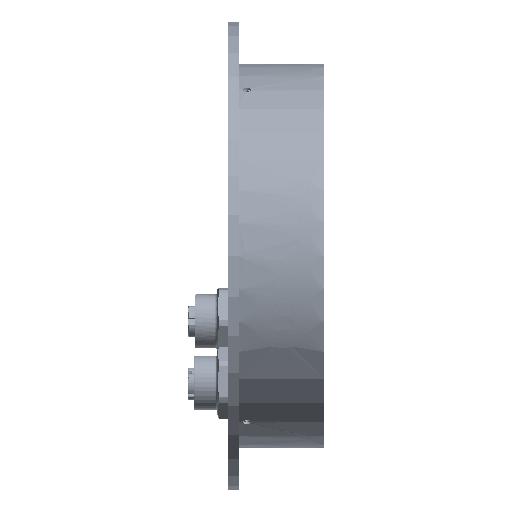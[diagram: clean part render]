
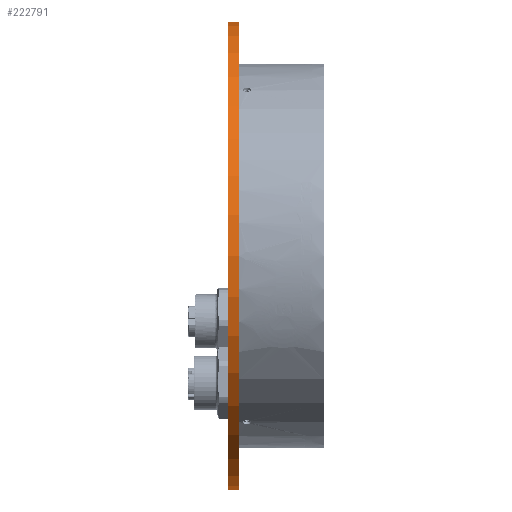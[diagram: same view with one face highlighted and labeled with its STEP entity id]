
A CAD part, front view. The second image highlights one B-rep face of the part: STEP entity #222791.
In plain terms, the highlighted cylindrical face has radius 61 mm (diameter 122 mm), a partial arc.
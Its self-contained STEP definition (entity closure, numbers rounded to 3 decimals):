
#974 = DIRECTION ( 'NONE',  ( 1., 0., 0. ) ) ;
#13043 = DIRECTION ( 'NONE',  ( 1., 0., 0. ) ) ;
#15783 = CIRCLE ( 'NONE', #160963, 61. ) ;
#19406 = EDGE_LOOP ( 'NONE', ( #90348, #55183, #224504, #225184 ) ) ;
#45458 = VECTOR ( 'NONE', #163009, 1000. ) ;
#46027 = AXIS2_PLACEMENT_3D ( 'NONE', #171261, #974, #168053 ) ;
#55183 = ORIENTED_EDGE ( 'NONE', *, *, #99300, .T. ) ;
#63323 = DIRECTION ( 'NONE',  ( 0., 0., -1. ) ) ;
#69161 = VERTEX_POINT ( 'NONE', #191452 ) ;
#72690 = VERTEX_POINT ( 'NONE', #122147 ) ;
#80180 = EDGE_CURVE ( 'NONE', #72690, #140333, #294338, .T. ) ;
#88830 = EDGE_CURVE ( 'NONE', #135814, #140333, #15783, .T. ) ;
#90348 = ORIENTED_EDGE ( 'NONE', *, *, #121621, .F. ) ;
#93118 = LINE ( 'NONE', #261847, #45458 ) ;
#99300 = EDGE_CURVE ( 'NONE', #69161, #72690, #162767, .T. ) ;
#107016 = VECTOR ( 'NONE', #171186, 1000. ) ;
#121621 = EDGE_CURVE ( 'NONE', #69161, #135814, #93118, .T. ) ;
#122147 = CARTESIAN_POINT ( 'NONE',  ( -3., 0., -61. ) ) ;
#135814 = VERTEX_POINT ( 'NONE', #169279 ) ;
#140333 = VERTEX_POINT ( 'NONE', #304654 ) ;
#141243 = DIRECTION ( 'NONE',  ( 1., 0., 0. ) ) ;
#160963 = AXIS2_PLACEMENT_3D ( 'NONE', #212651, #141243, #188370 ) ;
#162767 = CIRCLE ( 'NONE', #318030, 61. ) ;
#163009 = DIRECTION ( 'NONE',  ( 1., 0., 0. ) ) ;
#168053 = DIRECTION ( 'NONE',  ( 0., 0., -1. ) ) ;
#169279 = CARTESIAN_POINT ( 'NONE',  ( 0., 0., 61. ) ) ;
#171186 = DIRECTION ( 'NONE',  ( 1., 0., 0. ) ) ;
#171261 = CARTESIAN_POINT ( 'NONE',  ( 63.419, 0., 0. ) ) ;
#188370 = DIRECTION ( 'NONE',  ( 0., 0., -1. ) ) ;
#191452 = CARTESIAN_POINT ( 'NONE',  ( -3., 0., 61. ) ) ;
#198756 = CARTESIAN_POINT ( 'NONE',  ( 63.419, 0., -61. ) ) ;
#212651 = CARTESIAN_POINT ( 'NONE',  ( 0., 0., 0. ) ) ;
#222791 = ADVANCED_FACE ( 'NONE', ( #268475 ), #223117, .T. ) ;
#223117 = CYLINDRICAL_SURFACE ( 'NONE', #46027, 61. ) ;
#224504 = ORIENTED_EDGE ( 'NONE', *, *, #80180, .T. ) ;
#225184 = ORIENTED_EDGE ( 'NONE', *, *, #88830, .F. ) ;
#261088 = CARTESIAN_POINT ( 'NONE',  ( -3., 0., 0. ) ) ;
#261847 = CARTESIAN_POINT ( 'NONE',  ( 63.419, 0., 61. ) ) ;
#268475 = FACE_OUTER_BOUND ( 'NONE', #19406, .T. ) ;
#294338 = LINE ( 'NONE', #198756, #107016 ) ;
#304654 = CARTESIAN_POINT ( 'NONE',  ( 0., 0., -61. ) ) ;
#318030 = AXIS2_PLACEMENT_3D ( 'NONE', #261088, #13043, #63323 ) ;
